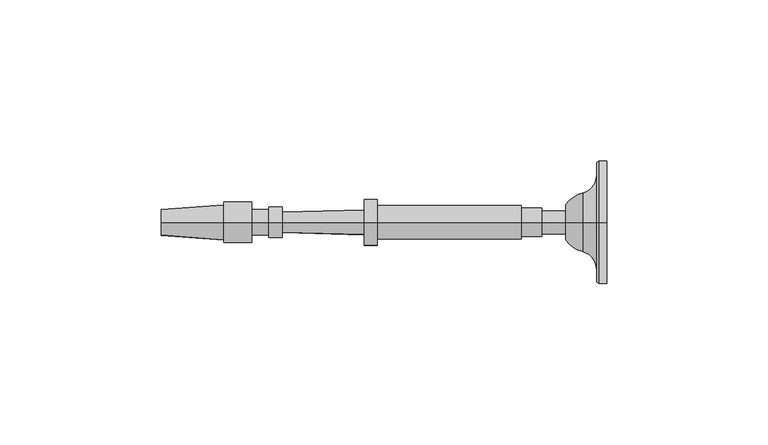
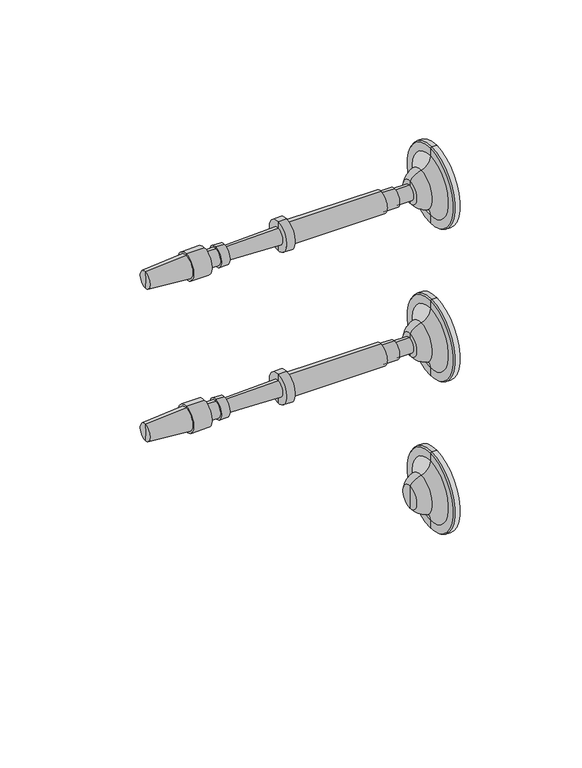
"""IFC4 building model written with IfcOpenShell, lengths in millimetres: railing geometry, RAILEASY CABLE RAILING CORNER TENSIONERS STAIR."""

from ifc_helpers import new_model, si_unit, point, frame, origin, place, context, project, spatial, polyline, circle_curve, ellipse_curve, trimmed, source, transform, mapped, element, save
from ifc_brep_helpers import plane_surface, cylinder_surface, revolved_surface, advanced_brep


def railing_44fb17b9(model_context):
    return source(origin(), model_context, "Body", "AdvancedBrep", [
        advanced_brep(
        [(4045.1015906, 20313.0866843, 32915.0001631), (4045.1015906, 20313.0866843, 32895.9501631), (4045.1015906, 20313.0866843, 32934.0501631), (4032.408954, 20313.0866843, 32909.4769785), (4032.408954, 20313.0866843, 32915.0001631), (4032.408954, 20313.0866843, 32920.5233478), (4037.6850504, 20313.0866843, 32905.8720381), (4037.6850504, 20313.0866843, 32924.1282881), (4042.0506754, 20313.0866843, 32900.2458254), (4042.0506754, 20313.0866843, 32929.7545009), (4042.0506754, 20313.0866843, 32896.3762941), (4042.0506754, 20313.0866843, 32933.6240321), (4042.7203406, 20313.0866843, 32895.9501631), (4042.7203406, 20313.0866843, 32934.0501631)],
        [
            (0, 1),
            (1, 2, circle_curve(frame((4045.1015906, 20313.0866843, 32915.0001631), z_axis=(1.0, 0.0, 0.0), x_axis=(0.0, 0.0, 1.0)), 19.05)),
            (2, 0),
            (2, 1, circle_curve(frame((4045.1015906, 20313.0866843, 32915.0001631), z_axis=(1.0, 0.0, 0.0), x_axis=(0.0, 0.0, 1.0)), 19.05)),
            (3, 4),
            (4, 5),
            (5, 3, circle_curve(frame((4032.408954, 20313.0866843, 32915.0001631), z_axis=(-1.0, 0.0, 0.0), x_axis=(0.0, 0.0, 1.0)), 5.5231846)),
            (3, 5, circle_curve(frame((4032.408954, 20313.0866843, 32915.0001631), z_axis=(-1.0, 0.0, 0.0), x_axis=(0.0, 0.0, 1.0)), 5.5231846)),
            (6, 3, circle_curve(frame((4040.0094591, 20313.0866843, 32914.9374304), z_axis=(0.0, 1.0, 0.0), x_axis=(-1.0, 0.0, 0.0)), 9.3586438)),
            (5, 7, circle_curve(frame((4040.0094591, 20313.0866843, 32915.0628958), z_axis=(0.0, 1.0, 0.0), x_axis=(-1.0, 0.0, 0.0)), 9.3586438)),
            (7, 6, circle_curve(frame((4037.6850504, 20313.0866843, 32915.0001631), z_axis=(-1.0, 0.0, 0.0), x_axis=(0.0, 0.0, 1.0)), 9.128125)),
            (6, 7, circle_curve(frame((4037.6850504, 20313.0866843, 32915.0001631), z_axis=(-1.0, 0.0, 0.0), x_axis=(0.0, 0.0, 1.0)), 9.128125)),
            (8, 6, circle_curve(frame((4036.2424634, 20313.0866843, 32900.2458254), z_axis=(0.0, -1.0, 0.0), x_axis=(-1.0, 0.0, 0.0)), 5.8082121)),
            (7, 9, circle_curve(frame((4036.2424634, 20313.0866843, 32929.7545009), z_axis=(0.0, -1.0, 0.0), x_axis=(-1.0, 0.0, 0.0)), 5.8082121)),
            (9, 8, circle_curve(frame((4042.0506754, 20313.0866843, 32915.0001631), z_axis=(-1.0, 0.0, 0.0), x_axis=(0.0, 0.0, 1.0)), 14.7543378)),
            (8, 9, circle_curve(frame((4042.0506754, 20313.0866843, 32915.0001631), z_axis=(-1.0, 0.0, 0.0), x_axis=(0.0, 0.0, 1.0)), 14.7543378)),
            (10, 8),
            (9, 11),
            (11, 10, circle_curve(frame((4042.0506754, 20313.0866843, 32915.0001631), z_axis=(-1.0, 0.0, 0.0), x_axis=(0.0, 0.0, 1.0)), 18.623869)),
            (10, 11, circle_curve(frame((4042.0506754, 20313.0866843, 32915.0001631), z_axis=(-1.0, 0.0, 0.0), x_axis=(0.0, 0.0, 1.0)), 18.623869)),
            (12, 10),
            (11, 13),
            (13, 12, circle_curve(frame((4042.7203406, 20313.0866843, 32915.0001631), z_axis=(-1.0, 0.0, 0.0), x_axis=(0.0, 0.0, 1.0)), 19.05)),
            (12, 13, circle_curve(frame((4042.7203406, 20313.0866843, 32915.0001631), z_axis=(-1.0, 0.0, 0.0), x_axis=(0.0, 0.0, 1.0)), 19.05)),
            (1, 12),
            (13, 2),
        ],
        [
            plane_surface(frame((4045.1015906, 20313.0866843, 32915.0001631), z_axis=(1.0, 0.0, 0.0), x_axis=(0.0, 0.0, 1.0))),
            plane_surface(frame((4032.408954, 20313.0866843, 32915.0001631), z_axis=(-1.0, 0.0, 0.0), x_axis=(0.0, 0.0, 1.0))),
            revolved_surface(trimmed(ellipse_curve(frame((4040.0094591, 20313.0866843, 32915.0628958), z_axis=(0.0, 1.0, 0.0), x_axis=(-1.0, 0.0, 0.0)), 9.3586438, 9.3586438), [point((4032.408954, 20313.0866843, 32920.5233478))], [point((4037.6850504, 20313.0866843, 32924.1282881))], True, "CARTESIAN"), (4045.1015906, 20313.0866843, 32915.0001631), (1.0, 0.0, 0.0)),
            revolved_surface(trimmed(ellipse_curve(frame((4036.2424634, 20313.0866843, 32929.7545009), z_axis=(0.0, -1.0, 0.0), x_axis=(-1.0, 0.0, 0.0)), 5.8082121, 5.8082121), [point((4037.6850504, 20313.0866843, 32924.1282881))], [point((4042.0506754, 20313.0866843, 32929.7545009))], True, "CARTESIAN"), (4045.1015906, 20313.0866843, 32915.0001631), (1.0, 0.0, 0.0)),
            plane_surface(frame((4042.0506754, 20313.0866843, 32915.0001631), z_axis=(-1.0, 0.0, 0.0), x_axis=(0.0, 0.0, 1.0))),
            revolved_surface(polyline([(4042.0506754, 20313.0866843, 32933.6240321), (4042.7203406, 20313.0866843, 32934.0501631)]), (4045.1015906, 20313.0866843, 32915.0001631), (1.0, 0.0, 0.0)),
            cylinder_surface(frame((4045.1015906, 20313.0866843, 32915.0001631), z_axis=(1.0, 0.0, 0.0), x_axis=(0.0, 0.0, 1.0)), 19.05),
        ],
        [
            (0, [[1, 2, 3]]),
            (0, [[-3, 4, -1]]),
            (1, [[5, 6, 7]]),
            (1, [[-6, -5, 8]]),
            (2, [[9, -7, 10, 11]]),
            (2, [[-10, -8, -9, 12]]),
            (3, [[13, -11, 14, 15]]),
            (3, [[-14, -12, -13, 16]]),
            (4, [[17, -15, 18, 19]]),
            (4, [[-18, -16, -17, 20]]),
            (5, [[21, -19, 22, 23]]),
            (5, [[-22, -20, -21, 24]]),
            (6, [[25, -23, 26, -2]]),
            (6, [[-26, -24, -25, -4]]),
        ],
    ),
        advanced_brep(
        [(4032.408954, 20313.0866843, 32911.4282881), (4032.408954, 20313.0866843, 32918.5720381), (4032.408954, 20313.0866843, 32915.0001631), (3907.4650648, 20313.0866843, 32915.0001631), (3907.1694004, 20313.0866843, 32919.0246235), (3907.1694004, 20313.0866843, 32910.9757028), (3926.5127644, 20313.0866843, 32920.445719), (3926.5127644, 20313.0866843, 32909.5546072), (3926.5127644, 20313.0866843, 32921.3386877), (3926.5127644, 20313.0866843, 32908.6616385), (3935.1447956, 20313.0866843, 32921.3386877), (3935.1447956, 20313.0866843, 32908.6616385), (3935.1447956, 20313.0866843, 32918.9574377), (3935.1447956, 20313.0866843, 32911.0428885), (3940.5026081, 20313.0866843, 32918.9574377), (3940.5026081, 20313.0866843, 32911.0428885), (3940.5026081, 20313.0866843, 32919.7511877), (3940.5026081, 20313.0866843, 32910.2491385), (3944.5705769, 20313.0866843, 32919.7511877), (3944.5705769, 20313.0866843, 32910.2491385), (3944.614664, 20313.0866843, 32918.1643), (3944.614664, 20313.0866843, 32911.8360262), (3970.0048672, 20313.0866843, 32918.8696944), (3970.0048672, 20313.0866843, 32911.1306319), (3970.0048672, 20313.0866843, 32922.1439131), (3970.0048672, 20313.0866843, 32907.8564131), (3973.9736172, 20313.0866843, 32922.1439131), (3973.9736172, 20313.0866843, 32907.8564131), (3973.9736172, 20313.0866843, 32920.1595381), (3973.9736172, 20313.0866843, 32909.8407881), (4018.7212735, 20313.0866843, 32920.1595381), (4018.7212735, 20313.0866843, 32909.8407881), (4018.7212735, 20313.0866843, 32919.3657881), (4018.7212735, 20313.0866843, 32910.6345381), (4025.0712735, 20313.0866843, 32919.3657881), (4025.0712735, 20313.0866843, 32910.6345381), (4025.0712735, 20313.0866843, 32918.5720381), (4025.0712735, 20313.0866843, 32911.4282881)],
        [
            (0, 1, circle_curve(frame((4032.408954, 20313.0866843, 32915.0001631), z_axis=(1.0, 0.0, 0.0), x_axis=(0.0, 0.0, 1.0000000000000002)), 3.571875)),
            (1, 2),
            (2, 0),
            (1, 0, circle_curve(frame((4032.408954, 20313.0866843, 32915.0001631), z_axis=(1.0, 0.0, 0.0), x_axis=(0.0, 0.0, 1.0000000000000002)), 3.571875)),
            (3, 4),
            (4, 5, circle_curve(frame((3907.1694004, 20313.0866843, 32915.0001631), z_axis=(-1.0, 0.0, 0.0), x_axis=(0.0, 0.0, 1.0000000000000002)), 4.0244604)),
            (5, 3),
            (5, 4, circle_curve(frame((3907.1694004, 20313.0866843, 32915.0001631), z_axis=(-1.0, 0.0, 0.0), x_axis=(0.0, 0.0, 1.0000000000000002)), 4.0244604)),
            (4, 6),
            (6, 7, circle_curve(frame((3926.5127644, 20313.0866843, 32915.0001631), z_axis=(-1.0, 0.0, 0.0), x_axis=(0.0, 0.0, 1.0000000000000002)), 5.4455559)),
            (7, 5),
            (7, 6, circle_curve(frame((3926.5127644, 20313.0866843, 32915.0001631), z_axis=(-1.0, 0.0, 0.0), x_axis=(0.0, 0.0, 1.0000000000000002)), 5.4455559)),
            (6, 8),
            (8, 9, circle_curve(frame((3926.5127644, 20313.0866843, 32915.0001631), z_axis=(-1.0, 0.0, 0.0), x_axis=(0.0, 0.0, 1.0000000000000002)), 6.3385246)),
            (9, 7),
            (9, 8, circle_curve(frame((3926.5127644, 20313.0866843, 32915.0001631), z_axis=(-1.0, 0.0, 0.0), x_axis=(0.0, 0.0, 1.0000000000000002)), 6.3385246)),
            (8, 10),
            (10, 11, circle_curve(frame((3935.1447956, 20313.0866843, 32915.0001631), z_axis=(-1.0, 0.0, 0.0), x_axis=(0.0, 0.0, 1.0000000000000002)), 6.3385246)),
            (11, 9),
            (11, 10, circle_curve(frame((3935.1447956, 20313.0866843, 32915.0001631), z_axis=(-1.0, 0.0, 0.0), x_axis=(0.0, 0.0, 1.0000000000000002)), 6.3385246)),
            (10, 12),
            (12, 13, circle_curve(frame((3935.1447956, 20313.0866843, 32915.0001631), z_axis=(-1.0, 0.0, 0.0), x_axis=(0.0, 0.0, 1.0000000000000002)), 3.9572746)),
            (13, 11),
            (13, 12, circle_curve(frame((3935.1447956, 20313.0866843, 32915.0001631), z_axis=(-1.0, 0.0, 0.0), x_axis=(0.0, 0.0, 1.0000000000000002)), 3.9572746)),
            (12, 14),
            (14, 15, circle_curve(frame((3940.5026081, 20313.0866843, 32915.0001631), z_axis=(-1.0, 0.0, 0.0), x_axis=(0.0, 0.0, 1.0000000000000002)), 3.9572746)),
            (15, 13),
            (15, 14, circle_curve(frame((3940.5026081, 20313.0866843, 32915.0001631), z_axis=(-1.0, 0.0, 0.0), x_axis=(0.0, 0.0, 1.0000000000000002)), 3.9572746)),
            (14, 16),
            (16, 17, circle_curve(frame((3940.5026081, 20313.0866843, 32915.0001631), z_axis=(-1.0, 0.0, 0.0), x_axis=(0.0, 0.0, 1.0000000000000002)), 4.7510246)),
            (17, 15),
            (17, 16, circle_curve(frame((3940.5026081, 20313.0866843, 32915.0001631), z_axis=(-1.0, 0.0, 0.0), x_axis=(0.0, 0.0, 1.0000000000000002)), 4.7510246)),
            (16, 18),
            (18, 19, circle_curve(frame((3944.5705769, 20313.0866843, 32915.0001631), z_axis=(-1.0, 0.0, 0.0), x_axis=(0.0, 0.0, 1.0000000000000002)), 4.7510246)),
            (19, 17),
            (19, 18, circle_curve(frame((3944.5705769, 20313.0866843, 32915.0001631), z_axis=(-1.0, 0.0, 0.0), x_axis=(0.0, 0.0, 1.0000000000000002)), 4.7510246)),
            (18, 20),
            (20, 21, circle_curve(frame((3944.614664, 20313.0866843, 32915.0001631), z_axis=(-1.0, 0.0, 0.0), x_axis=(0.0, 0.0, 1.0000000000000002)), 3.1641369)),
            (21, 19),
            (21, 20, circle_curve(frame((3944.614664, 20313.0866843, 32915.0001631), z_axis=(-1.0, 0.0, 0.0), x_axis=(0.0, 0.0, 1.0000000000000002)), 3.1641369)),
            (20, 22),
            (22, 23, circle_curve(frame((3970.0048672, 20313.0866843, 32915.0001631), z_axis=(-1.0, 0.0, 0.0), x_axis=(0.0, 0.0, 1.0000000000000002)), 3.8695313)),
            (23, 21),
            (23, 22, circle_curve(frame((3970.0048672, 20313.0866843, 32915.0001631), z_axis=(-1.0, 0.0, 0.0), x_axis=(0.0, 0.0, 1.0000000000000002)), 3.8695313)),
            (22, 24),
            (24, 25, circle_curve(frame((3970.0048672, 20313.0866843, 32915.0001631), z_axis=(-1.0, 0.0, 0.0), x_axis=(0.0, 0.0, 1.0000000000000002)), 7.14375)),
            (25, 23),
            (25, 24, circle_curve(frame((3970.0048672, 20313.0866843, 32915.0001631), z_axis=(-1.0, 0.0, 0.0), x_axis=(0.0, 0.0, 1.0000000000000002)), 7.14375)),
            (24, 26),
            (26, 27, circle_curve(frame((3973.9736172, 20313.0866843, 32915.0001631), z_axis=(-1.0, 0.0, 0.0), x_axis=(0.0, 0.0, 1.0000000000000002)), 7.14375)),
            (27, 25),
            (27, 26, circle_curve(frame((3973.9736172, 20313.0866843, 32915.0001631), z_axis=(-1.0, 0.0, 0.0), x_axis=(0.0, 0.0, 1.0000000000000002)), 7.14375)),
            (26, 28),
            (28, 29, circle_curve(frame((3973.9736172, 20313.0866843, 32915.0001631), z_axis=(-1.0, 0.0, 0.0), x_axis=(0.0, 0.0, 1.0000000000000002)), 5.159375)),
            (29, 27),
            (29, 28, circle_curve(frame((3973.9736172, 20313.0866843, 32915.0001631), z_axis=(-1.0, 0.0, 0.0), x_axis=(0.0, 0.0, 1.0000000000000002)), 5.159375)),
            (28, 30),
            (30, 31, circle_curve(frame((4018.7212735, 20313.0866843, 32915.0001631), z_axis=(-1.0, 0.0, 0.0), x_axis=(0.0, 0.0, 1.0000000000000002)), 5.159375)),
            (31, 29),
            (31, 30, circle_curve(frame((4018.7212735, 20313.0866843, 32915.0001631), z_axis=(-1.0, 0.0, 0.0), x_axis=(0.0, 0.0, 1.0000000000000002)), 5.159375)),
            (30, 32),
            (32, 33, circle_curve(frame((4018.7212735, 20313.0866843, 32915.0001631), z_axis=(-1.0, 0.0, 0.0), x_axis=(0.0, 0.0, 1.0000000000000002)), 4.365625)),
            (33, 31),
            (33, 32, circle_curve(frame((4018.7212735, 20313.0866843, 32915.0001631), z_axis=(-1.0, 0.0, 0.0), x_axis=(0.0, 0.0, 1.0000000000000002)), 4.365625)),
            (32, 34),
            (34, 35, circle_curve(frame((4025.0712735, 20313.0866843, 32915.0001631), z_axis=(-1.0, 0.0, 0.0), x_axis=(0.0, 0.0, 1.0000000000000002)), 4.365625)),
            (35, 33),
            (35, 34, circle_curve(frame((4025.0712735, 20313.0866843, 32915.0001631), z_axis=(-1.0, 0.0, 0.0), x_axis=(0.0, 0.0, 1.0000000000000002)), 4.365625)),
            (34, 36),
            (36, 37, circle_curve(frame((4025.0712735, 20313.0866843, 32915.0001631), z_axis=(-1.0, 0.0, 0.0), x_axis=(0.0, 0.0, 1.0000000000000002)), 3.571875)),
            (37, 35),
            (37, 36, circle_curve(frame((4025.0712735, 20313.0866843, 32915.0001631), z_axis=(-1.0, 0.0, 0.0), x_axis=(0.0, 0.0, 1.0000000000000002)), 3.571875)),
            (36, 1),
            (0, 37),
        ],
        [
            plane_surface(frame((4032.408954, 20313.0866843, 32915.0001631), z_axis=(1.0, 0.0, 0.0), x_axis=(0.0, 0.0, 1.0))),
            revolved_surface(polyline([(3907.1694004, 20313.0866843, 32919.0246235), (3907.4650648, 20313.0866843, 32915.0001631)]), (3907.4650648, 20313.0866843, 32915.0001631), (-1.0, 0.0, 0.0)),
            revolved_surface(polyline([(3926.5127644, 20313.0866843, 32920.445719), (3907.1694004, 20313.0866843, 32919.0246235)]), (3907.4650648, 20313.0866843, 32915.0001631), (-1.0, 0.0, 0.0)),
            plane_surface(frame((3926.5127644, 20313.0866843, 32915.0001631), z_axis=(-1.0, 0.0, 0.0), x_axis=(0.0, 0.0, 1.0))),
            cylinder_surface(frame((3907.4650648, 20313.0866843, 32915.0001631), z_axis=(-1.0, 0.0, 0.0), x_axis=(0.0, 0.0, 1.0000000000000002)), 6.3385246),
            plane_surface(frame((3935.1447956, 20313.0866843, 32915.0001631), z_axis=(1.0, 0.0, 0.0), x_axis=(0.0, 0.0, 1.0))),
            cylinder_surface(frame((3907.4650648, 20313.0866843, 32915.0001631), z_axis=(-1.0, 0.0, 0.0), x_axis=(0.0, 0.0, 1.0000000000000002)), 3.9572746),
            plane_surface(frame((3940.5026081, 20313.0866843, 32915.0001631), z_axis=(-1.0, 0.0, 0.0), x_axis=(0.0, 0.0, 1.0))),
            cylinder_surface(frame((3907.4650648, 20313.0866843, 32915.0001631), z_axis=(-1.0, 0.0, 0.0), x_axis=(0.0, 0.0, 1.0000000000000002)), 4.7510246),
            plane_surface(frame((3944.614664, 20313.0866843, 32915.0001631), z_axis=(1.0, 0.0, 0.0), x_axis=(0.0, 0.0, 1.0))),
            revolved_surface(polyline([(3970.0048672, 20313.0866843, 32918.8696944), (3944.614664, 20313.0866843, 32918.1643)]), (3907.4650648, 20313.0866843, 32915.0001631), (-1.0, 0.0, 0.0)),
            plane_surface(frame((3970.0048672, 20313.0866843, 32915.0001631), z_axis=(-1.0, 0.0, 0.0), x_axis=(0.0, 0.0, 1.0))),
            cylinder_surface(frame((3907.4650648, 20313.0866843, 32915.0001631), z_axis=(-1.0, 0.0, 0.0), x_axis=(0.0, 0.0, 1.0000000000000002)), 7.14375),
            plane_surface(frame((3973.9736172, 20313.0866843, 32915.0001631), z_axis=(1.0, 0.0, 0.0), x_axis=(0.0, 0.0, 1.0))),
            cylinder_surface(frame((3907.4650648, 20313.0866843, 32915.0001631), z_axis=(-1.0, 0.0, 0.0), x_axis=(0.0, 0.0, 1.0000000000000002)), 5.159375),
            plane_surface(frame((4018.7212735, 20313.0866843, 32915.0001631), z_axis=(1.0, 0.0, 0.0), x_axis=(0.0, 0.0, 1.0))),
            cylinder_surface(frame((3907.4650648, 20313.0866843, 32915.0001631), z_axis=(-1.0, 0.0, 0.0), x_axis=(0.0, 0.0, 1.0000000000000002)), 4.365625),
            plane_surface(frame((4025.0712735, 20313.0866843, 32915.0001631), z_axis=(1.0, 0.0, 0.0), x_axis=(0.0, 0.0, 1.0))),
            cylinder_surface(frame((3907.4650648, 20313.0866843, 32915.0001631), z_axis=(-1.0, 0.0, 0.0), x_axis=(0.0, 0.0, 1.0000000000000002)), 3.571875),
        ],
        [
            (0, [[1, 2, 3]]),
            (0, [[4, -3, -2]]),
            (1, [[5, 6, 7]]),
            (1, [[-7, 8, -5]]),
            (2, [[-6, 9, 10, 11]]),
            (2, [[-8, -11, 12, -9]]),
            (3, [[-10, 13, 14, 15]]),
            (3, [[-12, -15, 16, -13]]),
            (4, [[-14, 17, 18, 19]]),
            (4, [[-16, -19, 20, -17]]),
            (5, [[-18, 21, 22, 23]]),
            (5, [[-20, -23, 24, -21]]),
            (6, [[-22, 25, 26, 27]]),
            (6, [[-24, -27, 28, -25]]),
            (7, [[-26, 29, 30, 31]]),
            (7, [[-28, -31, 32, -29]]),
            (8, [[-30, 33, 34, 35]]),
            (8, [[-32, -35, 36, -33]]),
            (9, [[-34, 37, 38, 39]]),
            (9, [[-36, -39, 40, -37]]),
            (10, [[-38, 41, 42, 43]]),
            (10, [[-40, -43, 44, -41]]),
            (11, [[-42, 45, 46, 47]]),
            (11, [[-44, -47, 48, -45]]),
            (12, [[-46, 49, 50, 51]]),
            (12, [[-48, -51, 52, -49]]),
            (13, [[-50, 53, 54, 55]]),
            (13, [[-52, -55, 56, -53]]),
            (14, [[-54, 57, 58, 59]]),
            (14, [[-56, -59, 60, -57]]),
            (15, [[-58, 61, 62, 63]]),
            (15, [[-60, -63, 64, -61]]),
            (16, [[-62, 65, 66, 67]]),
            (16, [[-64, -67, 68, -65]]),
            (17, [[-66, 69, 70, 71]]),
            (17, [[-68, -71, 72, -69]]),
            (18, [[-70, 73, -1, 74]]),
            (18, [[-72, -74, -4, -73]]),
        ],
    ),
        advanced_brep(
        [(4045.1015906, 20313.0866843, 32838.8001631), (4045.1015906, 20313.0866843, 32819.7501631), (4045.1015906, 20313.0866843, 32857.8501631), (4032.408954, 20313.0866843, 32833.2769785), (4032.408954, 20313.0866843, 32838.8001631), (4032.408954, 20313.0866843, 32844.3233478), (4037.6850504, 20313.0866843, 32829.6720381), (4037.6850504, 20313.0866843, 32847.9282881), (4042.0506754, 20313.0866843, 32824.0458254), (4042.0506754, 20313.0866843, 32853.5545009), (4042.0506754, 20313.0866843, 32820.1762941), (4042.0506754, 20313.0866843, 32857.4240321), (4042.7203406, 20313.0866843, 32819.7501631), (4042.7203406, 20313.0866843, 32857.8501631)],
        [
            (0, 1),
            (1, 2, circle_curve(frame((4045.1015906, 20313.0866843, 32838.8001631), z_axis=(1.0, 0.0, 0.0), x_axis=(0.0, 0.0, 1.0)), 19.05)),
            (2, 0),
            (2, 1, circle_curve(frame((4045.1015906, 20313.0866843, 32838.8001631), z_axis=(1.0, 0.0, 0.0), x_axis=(0.0, 0.0, 1.0)), 19.05)),
            (3, 4),
            (4, 5),
            (5, 3, circle_curve(frame((4032.408954, 20313.0866843, 32838.8001631), z_axis=(-1.0, 0.0, 0.0), x_axis=(0.0, 0.0, 1.0)), 5.5231846)),
            (3, 5, circle_curve(frame((4032.408954, 20313.0866843, 32838.8001631), z_axis=(-1.0, 0.0, 0.0), x_axis=(0.0, 0.0, 1.0)), 5.5231846)),
            (6, 3, circle_curve(frame((4040.0094591, 20313.0866843, 32838.7374304), z_axis=(0.0, 1.0, 0.0), x_axis=(-1.0, 0.0, 0.0)), 9.3586438)),
            (5, 7, circle_curve(frame((4040.0094591, 20313.0866843, 32838.8628958), z_axis=(0.0, 1.0, 0.0), x_axis=(-1.0, 0.0, 0.0)), 9.3586438)),
            (7, 6, circle_curve(frame((4037.6850504, 20313.0866843, 32838.8001631), z_axis=(-1.0, 0.0, 0.0), x_axis=(0.0, 0.0, 1.0)), 9.128125)),
            (6, 7, circle_curve(frame((4037.6850504, 20313.0866843, 32838.8001631), z_axis=(-1.0, 0.0, 0.0), x_axis=(0.0, 0.0, 1.0)), 9.128125)),
            (8, 6, circle_curve(frame((4036.2424634, 20313.0866843, 32824.0458254), z_axis=(0.0, -1.0, 0.0), x_axis=(-1.0, 0.0, 0.0)), 5.8082121)),
            (7, 9, circle_curve(frame((4036.2424634, 20313.0866843, 32853.5545009), z_axis=(0.0, -1.0, 0.0), x_axis=(-1.0, 0.0, 0.0)), 5.8082121)),
            (9, 8, circle_curve(frame((4042.0506754, 20313.0866843, 32838.8001631), z_axis=(-1.0, 0.0, 0.0), x_axis=(0.0, 0.0, 1.0)), 14.7543378)),
            (8, 9, circle_curve(frame((4042.0506754, 20313.0866843, 32838.8001631), z_axis=(-1.0, 0.0, 0.0), x_axis=(0.0, 0.0, 1.0)), 14.7543378)),
            (10, 8),
            (9, 11),
            (11, 10, circle_curve(frame((4042.0506754, 20313.0866843, 32838.8001631), z_axis=(-1.0, 0.0, 0.0), x_axis=(0.0, 0.0, 1.0)), 18.623869)),
            (10, 11, circle_curve(frame((4042.0506754, 20313.0866843, 32838.8001631), z_axis=(-1.0, 0.0, 0.0), x_axis=(0.0, 0.0, 1.0)), 18.623869)),
            (12, 10),
            (11, 13),
            (13, 12, circle_curve(frame((4042.7203406, 20313.0866843, 32838.8001631), z_axis=(-1.0, 0.0, 0.0), x_axis=(0.0, 0.0, 1.0)), 19.05)),
            (12, 13, circle_curve(frame((4042.7203406, 20313.0866843, 32838.8001631), z_axis=(-1.0, 0.0, 0.0), x_axis=(0.0, 0.0, 1.0)), 19.05)),
            (1, 12),
            (13, 2),
        ],
        [
            plane_surface(frame((4045.1015906, 20313.0866843, 32838.8001631), z_axis=(1.0, 0.0, 0.0), x_axis=(0.0, 0.0, 1.0))),
            plane_surface(frame((4032.408954, 20313.0866843, 32838.8001631), z_axis=(-1.0, 0.0, 0.0), x_axis=(0.0, 0.0, 1.0))),
            revolved_surface(trimmed(ellipse_curve(frame((4040.0094591, 20313.0866843, 32838.8628958), z_axis=(0.0, 1.0, 0.0), x_axis=(-1.0, 0.0, 0.0)), 9.3586438, 9.3586438), [point((4032.408954, 20313.0866843, 32844.3233478))], [point((4037.6850504, 20313.0866843, 32847.9282881))], True, "CARTESIAN"), (4045.1015906, 20313.0866843, 32838.8001631), (1.0, 0.0, 0.0)),
            revolved_surface(trimmed(ellipse_curve(frame((4036.2424634, 20313.0866843, 32853.5545009), z_axis=(0.0, -1.0, 0.0), x_axis=(-1.0, 0.0, 0.0)), 5.8082121, 5.8082121), [point((4037.6850504, 20313.0866843, 32847.9282881))], [point((4042.0506754, 20313.0866843, 32853.5545009))], True, "CARTESIAN"), (4045.1015906, 20313.0866843, 32838.8001631), (1.0, 0.0, 0.0)),
            plane_surface(frame((4042.0506754, 20313.0866843, 32838.8001631), z_axis=(-1.0, 0.0, 0.0), x_axis=(0.0, 0.0, 1.0))),
            revolved_surface(polyline([(4042.0506754, 20313.0866843, 32857.4240321), (4042.7203406, 20313.0866843, 32857.8501631)]), (4045.1015906, 20313.0866843, 32838.8001631), (1.0, 0.0, 0.0)),
            cylinder_surface(frame((4045.1015906, 20313.0866843, 32838.8001631), z_axis=(1.0, 0.0, 0.0), x_axis=(0.0, 0.0, 1.0)), 19.05),
        ],
        [
            (0, [[1, 2, 3]]),
            (0, [[-3, 4, -1]]),
            (1, [[5, 6, 7]]),
            (1, [[-6, -5, 8]]),
            (2, [[9, -7, 10, 11]]),
            (2, [[-10, -8, -9, 12]]),
            (3, [[13, -11, 14, 15]]),
            (3, [[-14, -12, -13, 16]]),
            (4, [[17, -15, 18, 19]]),
            (4, [[-18, -16, -17, 20]]),
            (5, [[21, -19, 22, 23]]),
            (5, [[-22, -20, -21, 24]]),
            (6, [[25, -23, 26, -2]]),
            (6, [[-26, -24, -25, -4]]),
        ],
    ),
        advanced_brep(
        [(4032.408954, 20313.0866843, 32835.2282881), (4032.408954, 20313.0866843, 32842.3720381), (4032.408954, 20313.0866843, 32838.8001631), (3907.4650648, 20313.0866843, 32838.8001631), (3907.1694004, 20313.0866843, 32842.8246235), (3907.1694004, 20313.0866843, 32834.7757028), (3926.5127644, 20313.0866843, 32844.245719), (3926.5127644, 20313.0866843, 32833.3546072), (3926.5127644, 20313.0866843, 32845.1386877), (3926.5127644, 20313.0866843, 32832.4616385), (3935.1447956, 20313.0866843, 32845.1386877), (3935.1447956, 20313.0866843, 32832.4616385), (3935.1447956, 20313.0866843, 32842.7574377), (3935.1447956, 20313.0866843, 32834.8428885), (3940.5026081, 20313.0866843, 32842.7574377), (3940.5026081, 20313.0866843, 32834.8428885), (3940.5026081, 20313.0866843, 32843.5511877), (3940.5026081, 20313.0866843, 32834.0491385), (3944.5705769, 20313.0866843, 32843.5511877), (3944.5705769, 20313.0866843, 32834.0491385), (3944.614664, 20313.0866843, 32841.9643), (3944.614664, 20313.0866843, 32835.6360262), (3970.0048672, 20313.0866843, 32842.6696944), (3970.0048672, 20313.0866843, 32834.9306319), (3970.0048672, 20313.0866843, 32845.9439131), (3970.0048672, 20313.0866843, 32831.6564131), (3973.9736172, 20313.0866843, 32845.9439131), (3973.9736172, 20313.0866843, 32831.6564131), (3973.9736172, 20313.0866843, 32843.9595381), (3973.9736172, 20313.0866843, 32833.6407881), (4018.7212735, 20313.0866843, 32843.9595381), (4018.7212735, 20313.0866843, 32833.6407881), (4018.7212735, 20313.0866843, 32843.1657881), (4018.7212735, 20313.0866843, 32834.4345381), (4025.0712735, 20313.0866843, 32843.1657881), (4025.0712735, 20313.0866843, 32834.4345381), (4025.0712735, 20313.0866843, 32842.3720381), (4025.0712735, 20313.0866843, 32835.2282881)],
        [
            (0, 1, circle_curve(frame((4032.408954, 20313.0866843, 32838.8001631), z_axis=(1.0, 0.0, 0.0), x_axis=(0.0, 0.0, 1.0000000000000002)), 3.571875)),
            (1, 2),
            (2, 0),
            (1, 0, circle_curve(frame((4032.408954, 20313.0866843, 32838.8001631), z_axis=(1.0, 0.0, 0.0), x_axis=(0.0, 0.0, 1.0000000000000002)), 3.571875)),
            (3, 4),
            (4, 5, circle_curve(frame((3907.1694004, 20313.0866843, 32838.8001631), z_axis=(-1.0, 0.0, 0.0), x_axis=(0.0, 0.0, 1.0000000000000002)), 4.0244604)),
            (5, 3),
            (5, 4, circle_curve(frame((3907.1694004, 20313.0866843, 32838.8001631), z_axis=(-1.0, 0.0, 0.0), x_axis=(0.0, 0.0, 1.0000000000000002)), 4.0244604)),
            (4, 6),
            (6, 7, circle_curve(frame((3926.5127644, 20313.0866843, 32838.8001631), z_axis=(-1.0, 0.0, 0.0), x_axis=(0.0, 0.0, 1.0000000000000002)), 5.4455559)),
            (7, 5),
            (7, 6, circle_curve(frame((3926.5127644, 20313.0866843, 32838.8001631), z_axis=(-1.0, 0.0, 0.0), x_axis=(0.0, 0.0, 1.0000000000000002)), 5.4455559)),
            (6, 8),
            (8, 9, circle_curve(frame((3926.5127644, 20313.0866843, 32838.8001631), z_axis=(-1.0, 0.0, 0.0), x_axis=(0.0, 0.0, 1.0000000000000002)), 6.3385246)),
            (9, 7),
            (9, 8, circle_curve(frame((3926.5127644, 20313.0866843, 32838.8001631), z_axis=(-1.0, 0.0, 0.0), x_axis=(0.0, 0.0, 1.0000000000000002)), 6.3385246)),
            (8, 10),
            (10, 11, circle_curve(frame((3935.1447956, 20313.0866843, 32838.8001631), z_axis=(-1.0, 0.0, 0.0), x_axis=(0.0, 0.0, 1.0000000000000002)), 6.3385246)),
            (11, 9),
            (11, 10, circle_curve(frame((3935.1447956, 20313.0866843, 32838.8001631), z_axis=(-1.0, 0.0, 0.0), x_axis=(0.0, 0.0, 1.0000000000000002)), 6.3385246)),
            (10, 12),
            (12, 13, circle_curve(frame((3935.1447956, 20313.0866843, 32838.8001631), z_axis=(-1.0, 0.0, 0.0), x_axis=(0.0, 0.0, 1.0000000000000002)), 3.9572746)),
            (13, 11),
            (13, 12, circle_curve(frame((3935.1447956, 20313.0866843, 32838.8001631), z_axis=(-1.0, 0.0, 0.0), x_axis=(0.0, 0.0, 1.0000000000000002)), 3.9572746)),
            (12, 14),
            (14, 15, circle_curve(frame((3940.5026081, 20313.0866843, 32838.8001631), z_axis=(-1.0, 0.0, 0.0), x_axis=(0.0, 0.0, 1.0000000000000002)), 3.9572746)),
            (15, 13),
            (15, 14, circle_curve(frame((3940.5026081, 20313.0866843, 32838.8001631), z_axis=(-1.0, 0.0, 0.0), x_axis=(0.0, 0.0, 1.0000000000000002)), 3.9572746)),
            (14, 16),
            (16, 17, circle_curve(frame((3940.5026081, 20313.0866843, 32838.8001631), z_axis=(-1.0, 0.0, 0.0), x_axis=(0.0, 0.0, 1.0000000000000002)), 4.7510246)),
            (17, 15),
            (17, 16, circle_curve(frame((3940.5026081, 20313.0866843, 32838.8001631), z_axis=(-1.0, 0.0, 0.0), x_axis=(0.0, 0.0, 1.0000000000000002)), 4.7510246)),
            (16, 18),
            (18, 19, circle_curve(frame((3944.5705769, 20313.0866843, 32838.8001631), z_axis=(-1.0, 0.0, 0.0), x_axis=(0.0, 0.0, 1.0000000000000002)), 4.7510246)),
            (19, 17),
            (19, 18, circle_curve(frame((3944.5705769, 20313.0866843, 32838.8001631), z_axis=(-1.0, 0.0, 0.0), x_axis=(0.0, 0.0, 1.0000000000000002)), 4.7510246)),
            (18, 20),
            (20, 21, circle_curve(frame((3944.614664, 20313.0866843, 32838.8001631), z_axis=(-1.0, 0.0, 0.0), x_axis=(0.0, 0.0, 1.0000000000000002)), 3.1641369)),
            (21, 19),
            (21, 20, circle_curve(frame((3944.614664, 20313.0866843, 32838.8001631), z_axis=(-1.0, 0.0, 0.0), x_axis=(0.0, 0.0, 1.0000000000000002)), 3.1641369)),
            (20, 22),
            (22, 23, circle_curve(frame((3970.0048672, 20313.0866843, 32838.8001631), z_axis=(-1.0, 0.0, 0.0), x_axis=(0.0, 0.0, 1.0000000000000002)), 3.8695313)),
            (23, 21),
            (23, 22, circle_curve(frame((3970.0048672, 20313.0866843, 32838.8001631), z_axis=(-1.0, 0.0, 0.0), x_axis=(0.0, 0.0, 1.0000000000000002)), 3.8695313)),
            (22, 24),
            (24, 25, circle_curve(frame((3970.0048672, 20313.0866843, 32838.8001631), z_axis=(-1.0, 0.0, 0.0), x_axis=(0.0, 0.0, 1.0000000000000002)), 7.14375)),
            (25, 23),
            (25, 24, circle_curve(frame((3970.0048672, 20313.0866843, 32838.8001631), z_axis=(-1.0, 0.0, 0.0), x_axis=(0.0, 0.0, 1.0000000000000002)), 7.14375)),
            (24, 26),
            (26, 27, circle_curve(frame((3973.9736172, 20313.0866843, 32838.8001631), z_axis=(-1.0, 0.0, 0.0), x_axis=(0.0, 0.0, 1.0000000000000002)), 7.14375)),
            (27, 25),
            (27, 26, circle_curve(frame((3973.9736172, 20313.0866843, 32838.8001631), z_axis=(-1.0, 0.0, 0.0), x_axis=(0.0, 0.0, 1.0000000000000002)), 7.14375)),
            (26, 28),
            (28, 29, circle_curve(frame((3973.9736172, 20313.0866843, 32838.8001631), z_axis=(-1.0, 0.0, 0.0), x_axis=(0.0, 0.0, 1.0000000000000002)), 5.159375)),
            (29, 27),
            (29, 28, circle_curve(frame((3973.9736172, 20313.0866843, 32838.8001631), z_axis=(-1.0, 0.0, 0.0), x_axis=(0.0, 0.0, 1.0000000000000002)), 5.159375)),
            (28, 30),
            (30, 31, circle_curve(frame((4018.7212735, 20313.0866843, 32838.8001631), z_axis=(-1.0, 0.0, 0.0), x_axis=(0.0, 0.0, 1.0000000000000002)), 5.159375)),
            (31, 29),
            (31, 30, circle_curve(frame((4018.7212735, 20313.0866843, 32838.8001631), z_axis=(-1.0, 0.0, 0.0), x_axis=(0.0, 0.0, 1.0000000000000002)), 5.159375)),
            (30, 32),
            (32, 33, circle_curve(frame((4018.7212735, 20313.0866843, 32838.8001631), z_axis=(-1.0, 0.0, 0.0), x_axis=(0.0, 0.0, 1.0000000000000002)), 4.365625)),
            (33, 31),
            (33, 32, circle_curve(frame((4018.7212735, 20313.0866843, 32838.8001631), z_axis=(-1.0, 0.0, 0.0), x_axis=(0.0, 0.0, 1.0000000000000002)), 4.365625)),
            (32, 34),
            (34, 35, circle_curve(frame((4025.0712735, 20313.0866843, 32838.8001631), z_axis=(-1.0, 0.0, 0.0), x_axis=(0.0, 0.0, 1.0000000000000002)), 4.365625)),
            (35, 33),
            (35, 34, circle_curve(frame((4025.0712735, 20313.0866843, 32838.8001631), z_axis=(-1.0, 0.0, 0.0), x_axis=(0.0, 0.0, 1.0000000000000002)), 4.365625)),
            (34, 36),
            (36, 37, circle_curve(frame((4025.0712735, 20313.0866843, 32838.8001631), z_axis=(-1.0, 0.0, 0.0), x_axis=(0.0, 0.0, 1.0000000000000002)), 3.571875)),
            (37, 35),
            (37, 36, circle_curve(frame((4025.0712735, 20313.0866843, 32838.8001631), z_axis=(-1.0, 0.0, 0.0), x_axis=(0.0, 0.0, 1.0000000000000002)), 3.571875)),
            (36, 1),
            (0, 37),
        ],
        [
            plane_surface(frame((4032.408954, 20313.0866843, 32838.8001631), z_axis=(1.0, 0.0, 0.0), x_axis=(0.0, 0.0, 1.0))),
            revolved_surface(polyline([(3907.1694004, 20313.0866843, 32842.8246235), (3907.4650648, 20313.0866843, 32838.8001631)]), (3907.4650648, 20313.0866843, 32838.8001631), (-1.0, 0.0, 0.0)),
            revolved_surface(polyline([(3926.5127644, 20313.0866843, 32844.245719), (3907.1694004, 20313.0866843, 32842.8246235)]), (3907.4650648, 20313.0866843, 32838.8001631), (-1.0, 0.0, 0.0)),
            plane_surface(frame((3926.5127644, 20313.0866843, 32838.8001631), z_axis=(-1.0, 0.0, 0.0), x_axis=(0.0, 0.0, 1.0))),
            cylinder_surface(frame((3907.4650648, 20313.0866843, 32838.8001631), z_axis=(-1.0, 0.0, 0.0), x_axis=(0.0, 0.0, 1.0000000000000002)), 6.3385246),
            plane_surface(frame((3935.1447956, 20313.0866843, 32838.8001631), z_axis=(1.0, 0.0, 0.0), x_axis=(0.0, 0.0, 1.0))),
            cylinder_surface(frame((3907.4650648, 20313.0866843, 32838.8001631), z_axis=(-1.0, 0.0, 0.0), x_axis=(0.0, 0.0, 1.0000000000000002)), 3.9572746),
            plane_surface(frame((3940.5026081, 20313.0866843, 32838.8001631), z_axis=(-1.0, 0.0, 0.0), x_axis=(0.0, 0.0, 1.0))),
            cylinder_surface(frame((3907.4650648, 20313.0866843, 32838.8001631), z_axis=(-1.0, 0.0, 0.0), x_axis=(0.0, 0.0, 1.0000000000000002)), 4.7510246),
            plane_surface(frame((3944.614664, 20313.0866843, 32838.8001631), z_axis=(1.0, 0.0, 0.0), x_axis=(0.0, 0.0, 1.0))),
            revolved_surface(polyline([(3970.0048672, 20313.0866843, 32842.6696944), (3944.614664, 20313.0866843, 32841.9643)]), (3907.4650648, 20313.0866843, 32838.8001631), (-1.0, 0.0, 0.0)),
            plane_surface(frame((3970.0048672, 20313.0866843, 32838.8001631), z_axis=(-1.0, 0.0, 0.0), x_axis=(0.0, 0.0, 1.0))),
            cylinder_surface(frame((3907.4650648, 20313.0866843, 32838.8001631), z_axis=(-1.0, 0.0, 0.0), x_axis=(0.0, 0.0, 1.0000000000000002)), 7.14375),
            plane_surface(frame((3973.9736172, 20313.0866843, 32838.8001631), z_axis=(1.0, 0.0, 0.0), x_axis=(0.0, 0.0, 1.0))),
            cylinder_surface(frame((3907.4650648, 20313.0866843, 32838.8001631), z_axis=(-1.0, 0.0, 0.0), x_axis=(0.0, 0.0, 1.0000000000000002)), 5.159375),
            plane_surface(frame((4018.7212735, 20313.0866843, 32838.8001631), z_axis=(1.0, 0.0, 0.0), x_axis=(0.0, 0.0, 1.0))),
            cylinder_surface(frame((3907.4650648, 20313.0866843, 32838.8001631), z_axis=(-1.0, 0.0, 0.0), x_axis=(0.0, 0.0, 1.0000000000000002)), 4.365625),
            plane_surface(frame((4025.0712735, 20313.0866843, 32838.8001631), z_axis=(1.0, 0.0, 0.0), x_axis=(0.0, 0.0, 1.0))),
            cylinder_surface(frame((3907.4650648, 20313.0866843, 32838.8001631), z_axis=(-1.0, 0.0, 0.0), x_axis=(0.0, 0.0, 1.0000000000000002)), 3.571875),
        ],
        [
            (0, [[1, 2, 3]]),
            (0, [[4, -3, -2]]),
            (1, [[5, 6, 7]]),
            (1, [[-7, 8, -5]]),
            (2, [[-6, 9, 10, 11]]),
            (2, [[-8, -11, 12, -9]]),
            (3, [[-10, 13, 14, 15]]),
            (3, [[-12, -15, 16, -13]]),
            (4, [[-14, 17, 18, 19]]),
            (4, [[-16, -19, 20, -17]]),
            (5, [[-18, 21, 22, 23]]),
            (5, [[-20, -23, 24, -21]]),
            (6, [[-22, 25, 26, 27]]),
            (6, [[-24, -27, 28, -25]]),
            (7, [[-26, 29, 30, 31]]),
            (7, [[-28, -31, 32, -29]]),
            (8, [[-30, 33, 34, 35]]),
            (8, [[-32, -35, 36, -33]]),
            (9, [[-34, 37, 38, 39]]),
            (9, [[-36, -39, 40, -37]]),
            (10, [[-38, 41, 42, 43]]),
            (10, [[-40, -43, 44, -41]]),
            (11, [[-42, 45, 46, 47]]),
            (11, [[-44, -47, 48, -45]]),
            (12, [[-46, 49, 50, 51]]),
            (12, [[-48, -51, 52, -49]]),
            (13, [[-50, 53, 54, 55]]),
            (13, [[-52, -55, 56, -53]]),
            (14, [[-54, 57, 58, 59]]),
            (14, [[-56, -59, 60, -57]]),
            (15, [[-58, 61, 62, 63]]),
            (15, [[-60, -63, 64, -61]]),
            (16, [[-62, 65, 66, 67]]),
            (16, [[-64, -67, 68, -65]]),
            (17, [[-66, 69, 70, 71]]),
            (17, [[-68, -71, 72, -69]]),
            (18, [[-70, 73, -1, 74]]),
            (18, [[-72, -74, -4, -73]]),
        ],
    ),
        advanced_brep(
        [(4045.1015906, 20313.0866843, 32762.6001631), (4045.1015906, 20313.0866843, 32743.5501631), (4045.1015906, 20313.0866843, 32781.6501631), (4032.408954, 20313.0866843, 32757.0769785), (4032.408954, 20313.0866843, 32762.6001631), (4032.408954, 20313.0866843, 32768.1233478), (4037.6850504, 20313.0866843, 32753.4720381), (4037.6850504, 20313.0866843, 32771.7282881), (4042.0506754, 20313.0866843, 32747.8458254), (4042.0506754, 20313.0866843, 32777.3545009), (4042.0506754, 20313.0866843, 32743.9762941), (4042.0506754, 20313.0866843, 32781.2240321), (4042.7203406, 20313.0866843, 32743.5501631), (4042.7203406, 20313.0866843, 32781.6501631)],
        [
            (0, 1),
            (1, 2, circle_curve(frame((4045.1015906, 20313.0866843, 32762.6001631), z_axis=(1.0, 0.0, 0.0), x_axis=(0.0, 0.0, 1.0)), 19.05)),
            (2, 0),
            (2, 1, circle_curve(frame((4045.1015906, 20313.0866843, 32762.6001631), z_axis=(1.0, 0.0, 0.0), x_axis=(0.0, 0.0, 1.0)), 19.05)),
            (3, 4),
            (4, 5),
            (5, 3, circle_curve(frame((4032.408954, 20313.0866843, 32762.6001631), z_axis=(-1.0, 0.0, 0.0), x_axis=(0.0, 0.0, 1.0)), 5.5231846)),
            (3, 5, circle_curve(frame((4032.408954, 20313.0866843, 32762.6001631), z_axis=(-1.0, 0.0, 0.0), x_axis=(0.0, 0.0, 1.0)), 5.5231846)),
            (6, 3, circle_curve(frame((4040.0094591, 20313.0866843, 32762.5374304), z_axis=(0.0, 1.0, 0.0), x_axis=(-1.0, 0.0, 0.0)), 9.3586438)),
            (5, 7, circle_curve(frame((4040.0094591, 20313.0866843, 32762.6628958), z_axis=(0.0, 1.0, 0.0), x_axis=(-1.0, 0.0, 0.0)), 9.3586438)),
            (7, 6, circle_curve(frame((4037.6850504, 20313.0866843, 32762.6001631), z_axis=(-1.0, 0.0, 0.0), x_axis=(0.0, 0.0, 1.0)), 9.128125)),
            (6, 7, circle_curve(frame((4037.6850504, 20313.0866843, 32762.6001631), z_axis=(-1.0, 0.0, 0.0), x_axis=(0.0, 0.0, 1.0)), 9.128125)),
            (8, 6, circle_curve(frame((4036.2424634, 20313.0866843, 32747.8458254), z_axis=(0.0, -1.0, 0.0), x_axis=(-1.0, 0.0, 0.0)), 5.8082121)),
            (7, 9, circle_curve(frame((4036.2424634, 20313.0866843, 32777.3545009), z_axis=(0.0, -1.0, 0.0), x_axis=(-1.0, 0.0, 0.0)), 5.8082121)),
            (9, 8, circle_curve(frame((4042.0506754, 20313.0866843, 32762.6001631), z_axis=(-1.0, 0.0, 0.0), x_axis=(0.0, 0.0, 1.0)), 14.7543378)),
            (8, 9, circle_curve(frame((4042.0506754, 20313.0866843, 32762.6001631), z_axis=(-1.0, 0.0, 0.0), x_axis=(0.0, 0.0, 1.0)), 14.7543378)),
            (10, 8),
            (9, 11),
            (11, 10, circle_curve(frame((4042.0506754, 20313.0866843, 32762.6001631), z_axis=(-1.0, 0.0, 0.0), x_axis=(0.0, 0.0, 1.0)), 18.623869)),
            (10, 11, circle_curve(frame((4042.0506754, 20313.0866843, 32762.6001631), z_axis=(-1.0, 0.0, 0.0), x_axis=(0.0, 0.0, 1.0)), 18.623869)),
            (12, 10),
            (11, 13),
            (13, 12, circle_curve(frame((4042.7203406, 20313.0866843, 32762.6001631), z_axis=(-1.0, 0.0, 0.0), x_axis=(0.0, 0.0, 1.0)), 19.05)),
            (12, 13, circle_curve(frame((4042.7203406, 20313.0866843, 32762.6001631), z_axis=(-1.0, 0.0, 0.0), x_axis=(0.0, 0.0, 1.0)), 19.05)),
            (1, 12),
            (13, 2),
        ],
        [
            plane_surface(frame((4045.1015906, 20313.0866843, 32762.6001631), z_axis=(1.0, 0.0, 0.0), x_axis=(0.0, 0.0, 1.0))),
            plane_surface(frame((4032.408954, 20313.0866843, 32762.6001631), z_axis=(-1.0, 0.0, 0.0), x_axis=(0.0, 0.0, 1.0))),
            revolved_surface(trimmed(ellipse_curve(frame((4040.0094591, 20313.0866843, 32762.6628958), z_axis=(0.0, 1.0, 0.0), x_axis=(-1.0, 0.0, 0.0)), 9.3586438, 9.3586438), [point((4032.408954, 20313.0866843, 32768.1233478))], [point((4037.6850504, 20313.0866843, 32771.7282881))], True, "CARTESIAN"), (4045.1015906, 20313.0866843, 32762.6001631), (1.0, 0.0, 0.0)),
            revolved_surface(trimmed(ellipse_curve(frame((4036.2424634, 20313.0866843, 32777.3545009), z_axis=(0.0, -1.0, 0.0), x_axis=(-1.0, 0.0, 0.0)), 5.8082121, 5.8082121), [point((4037.6850504, 20313.0866843, 32771.7282881))], [point((4042.0506754, 20313.0866843, 32777.3545009))], True, "CARTESIAN"), (4045.1015906, 20313.0866843, 32762.6001631), (1.0, 0.0, 0.0)),
            plane_surface(frame((4042.0506754, 20313.0866843, 32762.6001631), z_axis=(-1.0, 0.0, 0.0), x_axis=(0.0, 0.0, 1.0))),
            revolved_surface(polyline([(4042.0506754, 20313.0866843, 32781.2240321), (4042.7203406, 20313.0866843, 32781.6501631)]), (4045.1015906, 20313.0866843, 32762.6001631), (1.0, 0.0, 0.0)),
            cylinder_surface(frame((4045.1015906, 20313.0866843, 32762.6001631), z_axis=(1.0, 0.0, 0.0), x_axis=(0.0, 0.0, 1.0)), 19.05),
        ],
        [
            (0, [[1, 2, 3]]),
            (0, [[-3, 4, -1]]),
            (1, [[5, 6, 7]]),
            (1, [[-6, -5, 8]]),
            (2, [[9, -7, 10, 11]]),
            (2, [[-10, -8, -9, 12]]),
            (3, [[13, -11, 14, 15]]),
            (3, [[-14, -12, -13, 16]]),
            (4, [[17, -15, 18, 19]]),
            (4, [[-18, -16, -17, 20]]),
            (5, [[21, -19, 22, 23]]),
            (5, [[-22, -20, -21, 24]]),
            (6, [[25, -23, 26, -2]]),
            (6, [[-26, -24, -25, -4]]),
        ],
    ),
    ])


if __name__ == "__main__":
    model = new_model("IFC4")
    model_context = context("Model", 3, world=origin())
    ifc_project = project(units=[si_unit("LENGTHUNIT", "METRE", prefix="MILLI")], contexts=[model_context])
    site = spatial("IfcSite", under=ifc_project)
    building = spatial("IfcBuilding", under=site)
    placement = place(None, origin())
    railing_shape = railing_44fb17b9(model_context)
    element("IfcRailing", 1, ObjectType="RAILEASY CABLE RAILING CORNER TENSIONERS STAIR", at=placement, inside=building, context=model_context, shape_type="MappedRepresentation", body=[
        mapped(railing_shape, transform((0.0, 0.0, 0.0), x_axis=(1.0, 0.0, 0.0), y_axis=(0.0, 1.0, 0.0), z_axis=(0.0, 0.0, 1.0))),
    ])
    save(model, "model.ifc")
